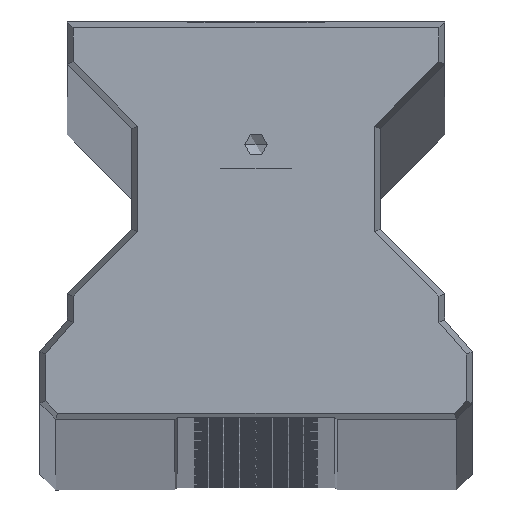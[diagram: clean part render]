
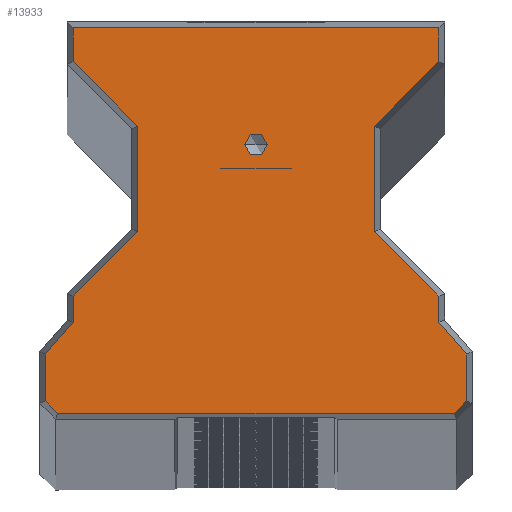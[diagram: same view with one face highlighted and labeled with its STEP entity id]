
A CAD part, top view. The second image highlights one B-rep face of the part: STEP entity #13933.
In plain terms, the highlighted planar face has unit normal (0, 0, 1).
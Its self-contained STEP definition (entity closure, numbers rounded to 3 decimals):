
#5122=CARTESIAN_POINT('',(0.,40.,0.));
#5123=DIRECTION('',(0.,0.,1.));
#5124=DIRECTION('',(-1.,0.,0.));
#5125=AXIS2_PLACEMENT_3D('',#5122,#5123,#5124);
#5127=CARTESIAN_POINT('',(0.,40.,0.));
#5128=DIRECTION('',(0.,0.,1.));
#5129=DIRECTION('',(1.,0.,0.));
#5130=AXIS2_PLACEMENT_3D('',#5127,#5128,#5129);
#5132=DIRECTION('',(1.,0.,0.));
#5133=VECTOR('',#5132,57.696);
#5134=CARTESIAN_POINT('',(-28.848,0.85,0.));
#5135=LINE('',#5134,#5133);
#5136=DIRECTION('',(0.707,-0.707,0.));
#5137=VECTOR('',#5136,2.548);
#5138=CARTESIAN_POINT('',(-30.65,2.652,0.));
#5139=LINE('',#5138,#5137);
#5140=DIRECTION('',(0.,-1.,0.));
#5141=VECTOR('',#5140,6.832);
#5142=CARTESIAN_POINT('',(-30.65,9.484,0.));
#5143=LINE('',#5142,#5141);
#5144=DIRECTION('',(0.653,0.757,0.));
#5145=VECTOR('',#5144,6.123);
#5146=CARTESIAN_POINT('',(-30.65,9.484,0.));
#5147=LINE('',#5146,#5145);
#5148=DIRECTION('',(0.,-1.,0.));
#5149=VECTOR('',#5148,3.809);
#5150=CARTESIAN_POINT('',(-26.65,17.93,0.));
#5151=LINE('',#5150,#5149);
#5152=DIRECTION('',(-0.707,-0.707,0.));
#5153=VECTOR('',#5152,13.294);
#5154=CARTESIAN_POINT('',(-17.25,27.33,0.));
#5155=LINE('',#5154,#5153);
#5156=DIRECTION('',(0.,-1.,0.));
#5157=VECTOR('',#5156,15.34);
#5158=CARTESIAN_POINT('',(-17.25,42.67,0.));
#5159=LINE('',#5158,#5157);
#5160=DIRECTION('',(0.707,-0.707,0.));
#5161=VECTOR('',#5160,13.294);
#5162=CARTESIAN_POINT('',(-26.65,52.07,0.));
#5163=LINE('',#5162,#5161);
#5164=DIRECTION('',(0.,-1.,0.));
#5165=VECTOR('',#5164,4.93);
#5166=CARTESIAN_POINT('',(-26.65,57.,0.));
#5167=LINE('',#5166,#5165);
#5168=DIRECTION('',(-1.,0.,0.));
#5169=VECTOR('',#5168,53.3);
#5170=CARTESIAN_POINT('',(26.65,57.,0.));
#5171=LINE('',#5170,#5169);
#5172=DIRECTION('',(0.,1.,0.));
#5173=VECTOR('',#5172,4.93);
#5174=CARTESIAN_POINT('',(26.65,52.07,0.));
#5175=LINE('',#5174,#5173);
#5176=DIRECTION('',(-0.707,-0.707,0.));
#5177=VECTOR('',#5176,13.294);
#5178=CARTESIAN_POINT('',(26.65,52.07,0.));
#5179=LINE('',#5178,#5177);
#5180=DIRECTION('',(0.,1.,0.));
#5181=VECTOR('',#5180,15.34);
#5182=CARTESIAN_POINT('',(17.25,27.33,0.));
#5183=LINE('',#5182,#5181);
#5184=DIRECTION('',(-0.707,0.707,0.));
#5185=VECTOR('',#5184,13.294);
#5186=CARTESIAN_POINT('',(26.65,17.93,0.));
#5187=LINE('',#5186,#5185);
#5188=DIRECTION('',(0.,1.,0.));
#5189=VECTOR('',#5188,3.809);
#5190=CARTESIAN_POINT('',(26.65,14.12,0.));
#5191=LINE('',#5190,#5189);
#5192=DIRECTION('',(-0.653,0.757,0.));
#5193=VECTOR('',#5192,6.123);
#5194=CARTESIAN_POINT('',(30.65,9.484,0.));
#5195=LINE('',#5194,#5193);
#5196=DIRECTION('',(0.,1.,0.));
#5197=VECTOR('',#5196,6.832);
#5198=CARTESIAN_POINT('',(30.65,2.652,0.));
#5199=LINE('',#5198,#5197);
#5200=DIRECTION('',(0.707,0.707,0.));
#5201=VECTOR('',#5200,2.548);
#5202=CARTESIAN_POINT('',(28.848,0.85,0.));
#5203=LINE('',#5202,#5201);
#5420=CARTESIAN_POINT('',(-1.65,40.,0.));
#5421=VERTEX_POINT('',#5420);
#5422=CARTESIAN_POINT('',(1.65,40.,0.));
#5423=VERTEX_POINT('',#5422);
#5626=CARTESIAN_POINT('',(-28.848,0.85,0.));
#5627=CARTESIAN_POINT('',(28.848,0.85,0.));
#5628=VERTEX_POINT('',#5626);
#5629=VERTEX_POINT('',#5627);
#5630=CARTESIAN_POINT('',(30.65,2.652,0.));
#5631=VERTEX_POINT('',#5630);
#5632=CARTESIAN_POINT('',(30.65,9.484,0.));
#5633=VERTEX_POINT('',#5632);
#5634=CARTESIAN_POINT('',(26.65,14.12,0.));
#5635=VERTEX_POINT('',#5634);
#5636=CARTESIAN_POINT('',(26.65,17.93,0.));
#5637=VERTEX_POINT('',#5636);
#5638=CARTESIAN_POINT('',(17.25,27.33,0.));
#5639=VERTEX_POINT('',#5638);
#5640=CARTESIAN_POINT('',(17.25,42.67,0.));
#5641=VERTEX_POINT('',#5640);
#5642=CARTESIAN_POINT('',(26.65,52.07,0.));
#5643=VERTEX_POINT('',#5642);
#5644=CARTESIAN_POINT('',(26.65,57.,0.));
#5645=VERTEX_POINT('',#5644);
#5646=CARTESIAN_POINT('',(-26.65,57.,0.));
#5647=VERTEX_POINT('',#5646);
#5648=CARTESIAN_POINT('',(-26.65,52.07,0.));
#5649=VERTEX_POINT('',#5648);
#5650=CARTESIAN_POINT('',(-17.25,42.67,0.));
#5651=VERTEX_POINT('',#5650);
#5652=CARTESIAN_POINT('',(-17.25,27.33,0.));
#5653=VERTEX_POINT('',#5652);
#5654=CARTESIAN_POINT('',(-26.65,17.93,0.));
#5655=VERTEX_POINT('',#5654);
#5656=CARTESIAN_POINT('',(-26.65,14.12,0.));
#5657=VERTEX_POINT('',#5656);
#5658=CARTESIAN_POINT('',(-30.65,9.484,0.));
#5659=VERTEX_POINT('',#5658);
#6826=CARTESIAN_POINT('',(-30.65,2.652,0.));
#6827=VERTEX_POINT('',#6826);
#13885=CARTESIAN_POINT('',(0.,0.,0.));
#13886=DIRECTION('',(0.,0.,1.));
#13887=DIRECTION('',(1.,0.,0.));
#13888=AXIS2_PLACEMENT_3D('',#13885,#13886,#13887);
#13889=PLANE('',#13888);
#13891=ORIENTED_EDGE('',*,*,#13890,.F.);
#13893=ORIENTED_EDGE('',*,*,#13892,.F.);
#13895=ORIENTED_EDGE('',*,*,#13894,.F.);
#13897=ORIENTED_EDGE('',*,*,#13896,.T.);
#13899=ORIENTED_EDGE('',*,*,#13898,.F.);
#13901=ORIENTED_EDGE('',*,*,#13900,.F.);
#13903=ORIENTED_EDGE('',*,*,#13902,.F.);
#13904=ORIENTED_EDGE('',*,*,#13875,.F.);
#13906=ORIENTED_EDGE('',*,*,#13905,.F.);
#13908=ORIENTED_EDGE('',*,*,#13907,.F.);
#13910=ORIENTED_EDGE('',*,*,#13909,.F.);
#13912=ORIENTED_EDGE('',*,*,#13911,.T.);
#13914=ORIENTED_EDGE('',*,*,#13913,.F.);
#13916=ORIENTED_EDGE('',*,*,#13915,.F.);
#13918=ORIENTED_EDGE('',*,*,#13917,.F.);
#13920=ORIENTED_EDGE('',*,*,#13919,.F.);
#13922=ORIENTED_EDGE('',*,*,#13921,.F.);
#13924=ORIENTED_EDGE('',*,*,#13923,.F.);
#13925=EDGE_LOOP('',(#13891,#13893,#13895,#13897,#13899,#13901,#13903,#13904,
#13906,#13908,#13910,#13912,#13914,#13916,#13918,#13920,#13922,#13924));
#13926=FACE_OUTER_BOUND('',#13925,.F.);
#13928=ORIENTED_EDGE('',*,*,#13927,.T.);
#13930=ORIENTED_EDGE('',*,*,#13929,.T.);
#13931=EDGE_LOOP('',(#13928,#13930));
#13932=FACE_BOUND('',#13931,.F.);
#5126=CIRCLE('',#5125,1.65);
#5131=CIRCLE('',#5130,1.65);
#13875=EDGE_CURVE('',#5649,#5651,#5163,.T.);
#13890=EDGE_CURVE('',#5628,#5629,#5135,.T.);
#13892=EDGE_CURVE('',#6827,#5628,#5139,.T.);
#13894=EDGE_CURVE('',#5659,#6827,#5143,.T.);
#13896=EDGE_CURVE('',#5659,#5657,#5147,.T.);
#13898=EDGE_CURVE('',#5655,#5657,#5151,.T.);
#13900=EDGE_CURVE('',#5653,#5655,#5155,.T.);
#13902=EDGE_CURVE('',#5651,#5653,#5159,.T.);
#13905=EDGE_CURVE('',#5647,#5649,#5167,.T.);
#13907=EDGE_CURVE('',#5645,#5647,#5171,.T.);
#13909=EDGE_CURVE('',#5643,#5645,#5175,.T.);
#13911=EDGE_CURVE('',#5643,#5641,#5179,.T.);
#13913=EDGE_CURVE('',#5639,#5641,#5183,.T.);
#13915=EDGE_CURVE('',#5637,#5639,#5187,.T.);
#13917=EDGE_CURVE('',#5635,#5637,#5191,.T.);
#13919=EDGE_CURVE('',#5633,#5635,#5195,.T.);
#13921=EDGE_CURVE('',#5631,#5633,#5199,.T.);
#13923=EDGE_CURVE('',#5629,#5631,#5203,.T.);
#13927=EDGE_CURVE('',#5421,#5423,#5126,.T.);
#13929=EDGE_CURVE('',#5423,#5421,#5131,.T.);
#13933=ADVANCED_FACE('',(#13926,#13932),#13889,.T.);
